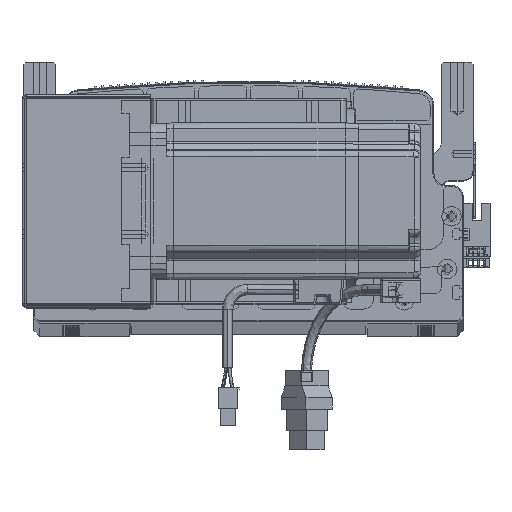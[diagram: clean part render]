
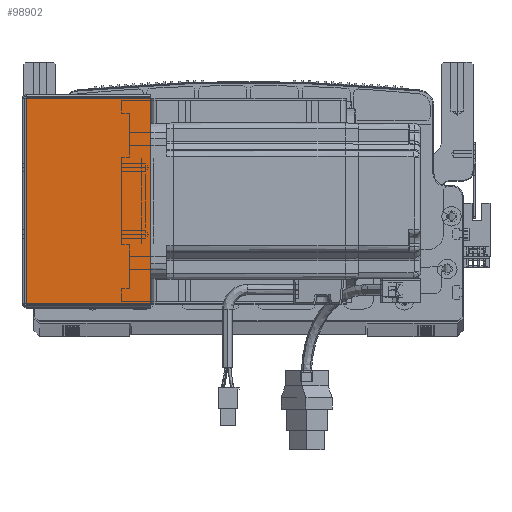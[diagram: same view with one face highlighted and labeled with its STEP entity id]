
A CAD part, top view. The second image highlights one B-rep face of the part: STEP entity #98902.
In plain terms, the highlighted planar face has unit normal (0, 0, 1) as drawn and (0, 0, -1) by its records, which use the part's own axes.
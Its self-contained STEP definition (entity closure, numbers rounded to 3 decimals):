
#208 = VECTOR ( 'NONE', #36667, 1000. ) ;
#4819 = VERTEX_POINT ( 'NONE', #12198 ) ;
#10500 = LINE ( 'NONE', #74723, #56858 ) ;
#11850 = CARTESIAN_POINT ( 'NONE',  ( 0.737, 0., -205.5 ) ) ;
#12198 = CARTESIAN_POINT ( 'NONE',  ( 64.5, 0.707, -205.5 ) ) ;
#12463 = CARTESIAN_POINT ( 'NONE',  ( 0., 0., -205.5 ) ) ;
#12815 = LINE ( 'NONE', #70346, #24006 ) ;
#14067 = LINE ( 'NONE', #11850, #208 ) ;
#17111 = VERTEX_POINT ( 'NONE', #42859 ) ;
#19697 = ORIENTED_EDGE ( 'NONE', *, *, #35206, .F. ) ;
#21119 = CARTESIAN_POINT ( 'NONE',  ( 64.5, 105.293, -205.5 ) ) ;
#21502 = PLANE ( 'NONE',  #101349 ) ;
#21839 = DIRECTION ( 'NONE',  ( 0., 0., 1. ) ) ;
#21988 = LINE ( 'NONE', #73609, #67187 ) ;
#24006 = VECTOR ( 'NONE', #69327, 1000. ) ;
#25560 = DIRECTION ( 'NONE',  ( 1., 0., 0. ) ) ;
#26659 = EDGE_CURVE ( 'NONE', #93527, #4819, #21988, .T. ) ;
#35206 = EDGE_CURVE ( 'NONE', #17111, #93527, #14067, .T. ) ;
#36667 = DIRECTION ( 'NONE',  ( 0., -1., 0. ) ) ;
#42859 = CARTESIAN_POINT ( 'NONE',  ( 0.737, 105.293, -205.5 ) ) ;
#45674 = DIRECTION ( 'NONE',  ( 1., 0., 0. ) ) ;
#48145 = CARTESIAN_POINT ( 'NONE',  ( 0.737, 0.707, -205.5 ) ) ;
#56858 = VECTOR ( 'NONE', #91874, 1000. ) ;
#60986 = ORIENTED_EDGE ( 'NONE', *, *, #88094, .T. ) ;
#65985 = VERTEX_POINT ( 'NONE', #21119 ) ;
#67187 = VECTOR ( 'NONE', #25560, 1000. ) ;
#69327 = DIRECTION ( 'NONE',  ( 1., 0., 0. ) ) ;
#70346 = CARTESIAN_POINT ( 'NONE',  ( 0., 105.293, -205.5 ) ) ;
#70857 = ORIENTED_EDGE ( 'NONE', *, *, #26659, .F. ) ;
#72605 = FACE_OUTER_BOUND ( 'NONE', #88929, .T. ) ;
#73609 = CARTESIAN_POINT ( 'NONE',  ( 0., 0.707, -205.5 ) ) ;
#74723 = CARTESIAN_POINT ( 'NONE',  ( 64.5, 0., -205.5 ) ) ;
#75140 = ORIENTED_EDGE ( 'NONE', *, *, #78740, .T. ) ;
#78740 = EDGE_CURVE ( 'NONE', #65985, #4819, #10500, .T. ) ;
#88094 = EDGE_CURVE ( 'NONE', #17111, #65985, #12815, .T. ) ;
#88929 = EDGE_LOOP ( 'NONE', ( #19697, #60986, #75140, #70857 ) ) ;
#91874 = DIRECTION ( 'NONE',  ( 0., -1., 0. ) ) ;
#93527 = VERTEX_POINT ( 'NONE', #48145 ) ;
#98902 = ADVANCED_FACE ( 'NONE', ( #72605 ), #21502, .F. ) ;
#101349 = AXIS2_PLACEMENT_3D ( 'NONE', #12463, #21839, #45674 ) ;
